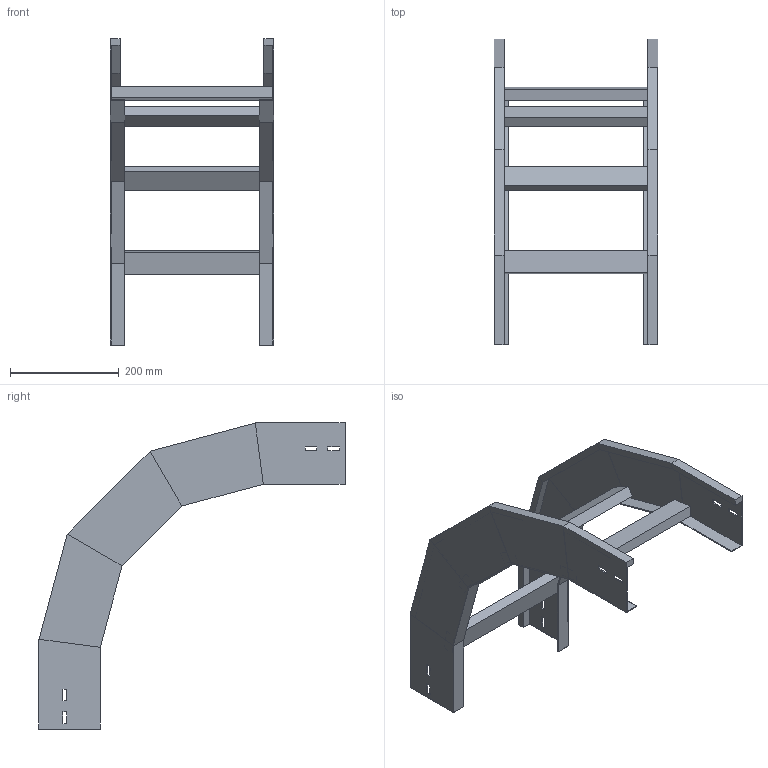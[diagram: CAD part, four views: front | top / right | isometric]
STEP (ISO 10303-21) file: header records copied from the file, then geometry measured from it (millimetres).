
FILE_DESCRIPTION (( 'STEP AP214' ), '1' );
FILE_NAME ('A2_33B3J300.step', '2025-02-21T15:03:33', ( '' ), ( '' ), 'SwSTEP 2.0', 'SolidWorks 2023', '' );
FILE_SCHEMA (( 'AUTOMOTIVE_DESIGN' ));
Length unit declared in the file: millimetre
Products named in the file (3): A2_33B3J300; LONGH.DISCESA_90°_H112.5_R300; TRAVERSINO_300
Assembly tree (6 placements, depth 2):
  A2_33B3J300
    LONGH.DISCESA_90°_H112.5_R300  x2
    TRAVERSINO_300  x4
Bounding box: 300 x 561.94 x 561.94 mm (x, y, z)
Volume: 1777074 mm3; surface area: 678139.5 mm2
Topology: 6 solids, 6 shells, 140 faces, 320 edges, 192 vertices
Faces by surface type: plane 140
Entity records: 1872 total; most frequent: CARTESIAN_POINT 309, ORIENTED_EDGE 296, DIRECTION 294, LINE 148, VECTOR 148, EDGE_CURVE 148, VERTEX_POINT 88, AXIS2_PLACEMENT_3D 73
